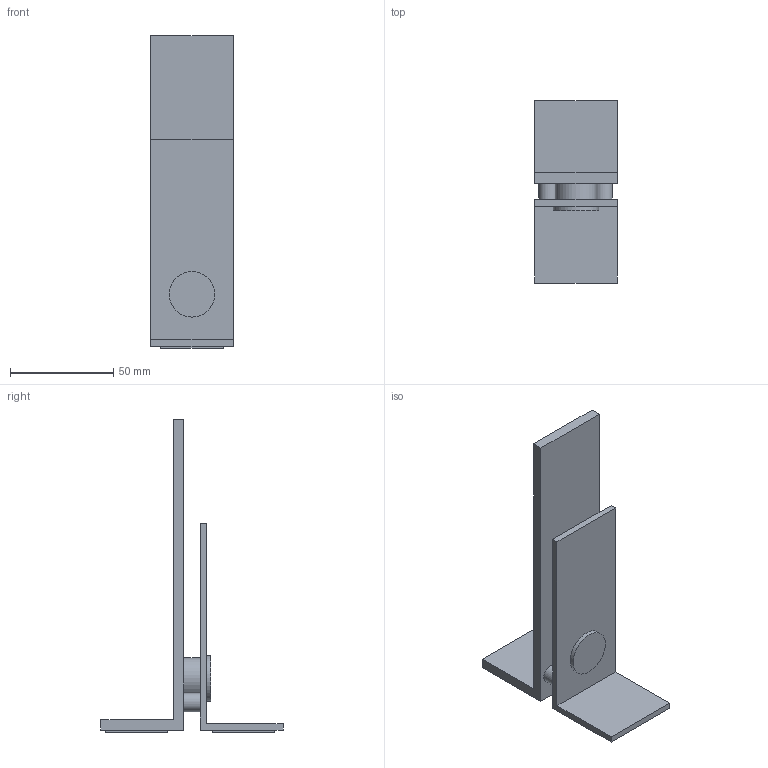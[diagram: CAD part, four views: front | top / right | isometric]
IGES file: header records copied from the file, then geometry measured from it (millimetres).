
Start section: Data from Parasolid IGES Translator 20.0.26, Copyright(c) 2006 Siemens P LM Software. All Rights Reserved.
Global section: file name: 9309840.igs; native system: By Siemens PLM Incorporated; preprocessor: XPlus GENERIC/IGES 20.0.26; author: Noname; organization: Noname; date: 20220302.125432; units: millimetre
Bounding box: 40 x 88 x 151.1 mm (x, y, z)
Surface area: 29795.2 mm2 (no closed solid volume)
Topology: 0 solids, 0 shells, 33 faces, 144 edges, 136 vertices
Faces by surface type: extrusion 29, revolution 4
